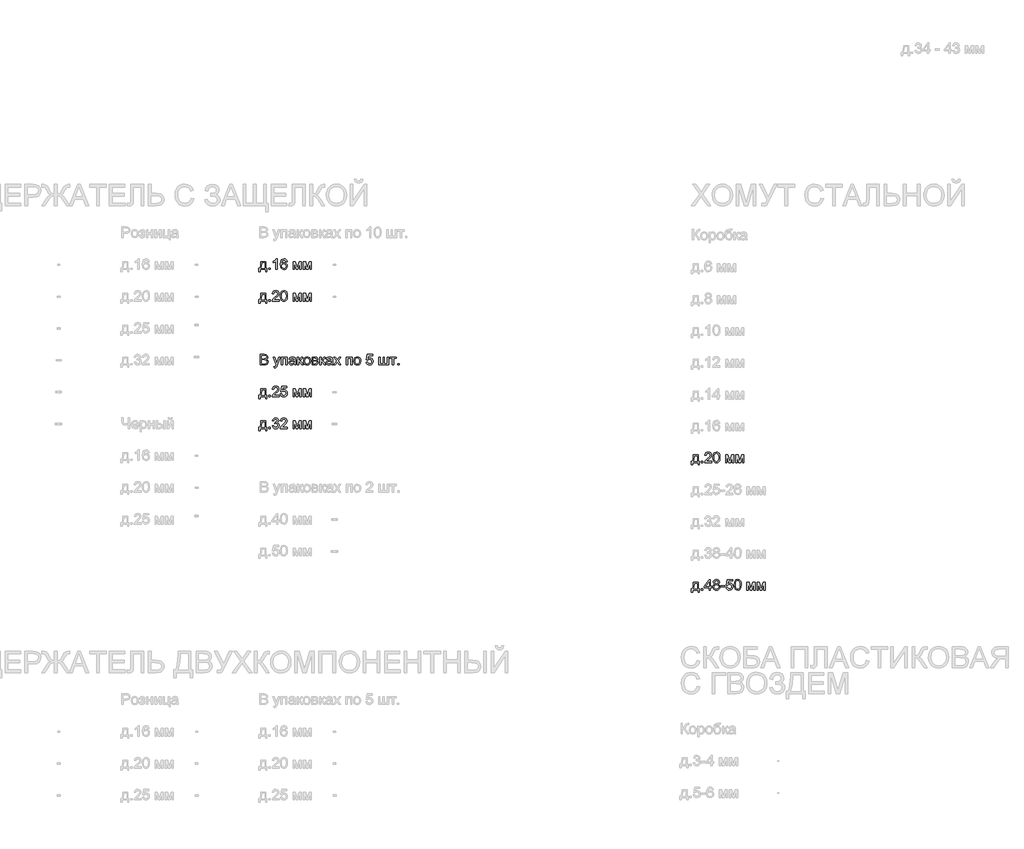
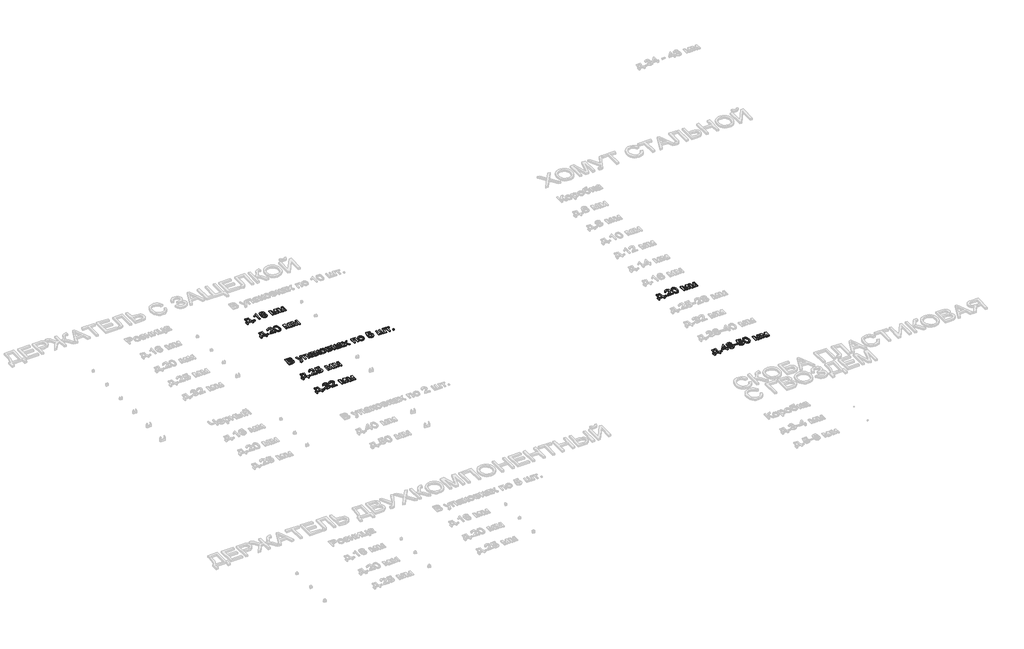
# One storey, part 47 of 98: 7 proxies.
"""IFC4 building model written with IfcOpenShell, lengths in millimetres."""

from ifc_helpers import new_model, si_unit, origin, origin_with_axes, place, context, project, spatial, polyline, outline, extrude, element, save

model = new_model("IFC4")

# Units and contexts
model_context = context("Model", 3, world=origin())
ifc_project = project(units=[si_unit("LENGTHUNIT", "METRE", prefix="MILLI")], contexts=[model_context])

# Site, building, storey
site = spatial("IfcSite", under=ifc_project)
building = spatial("IfcBuilding", under=site)
storey = spatial("IfcBuildingStorey", under=building, Name="Этаж 01", Elevation=0.0)

# Proxies
placement = place(None, origin())
element("IfcBuildingElementProxy", 1, Name="100", ObjectType="100", at=placement, inside=storey, context=model_context, shape_type="SweptSolid", body=[
    extrude(outline(polyline([(8374.7606918, -32185.7395637), (8421.8495872, -32185.7395637), (8421.8495872, -32246.9551277), (8431.2673663, -32246.9551277), (8431.2673663, -32279.9173545), (8418.7103275, -32279.9173545), (8418.7103275, -32259.5121665), (8366.9125426, -32259.5121665), (8366.9125426, -32279.9173545), (8354.3555038, -32279.9173545), (8354.3555038, -32246.9551277), (8362.2036531, -32246.9551277), (8371.903475, -32223.0060098), (8374.7606918, -32185.7395637)]), holes=[polyline([(8385.7481007, -32198.2966025), (8382.8050448, -32226.905559), (8376.3303217, -32246.9551277), (8409.2925484, -32246.9551277), (8409.2925484, -32198.2966025), (8385.7481007, -32198.2966025)])]), origin_with_axes(), (0.0, 0.0, 1.0), 10.0),
    extrude(outline(polyline([(8448.5332946, -32259.5121665), (8448.5332946, -32246.9551277), (8461.0903334, -32246.9551277), (8461.0903334, -32259.5121665), (8448.5332946, -32259.5121665)])), origin_with_axes(), (0.0, 0.0, 1.0), 10.0),
    extrude(outline(polyline([(8528.5844167, -32259.5121665), (8516.027378, -32259.5121665), (8516.027378, -32181.2268779), (8504.1325268, -32189.7004265), (8490.9133004, -32196.0402596), (8490.9133004, -32184.1699338), (8509.3196629, -32172.4222355), (8520.4910128, -32159.0558563), (8528.5844167, -32159.0558563), (8528.5844167, -32259.5121665)])), origin_with_axes(), (0.0, 0.0, 1.0), 10.0),
    extrude(outline(polyline([(8622.7622075, -32185.7395637), (8610.2051687, -32187.3091935), (8605.4472283, -32176.8368194), (8592.865664, -32171.6128951), (8581.5348986, -32174.6540529), (8572.9632481, -32186.0706575), (8569.3947927, -32208.4501455), (8580.4680408, -32198.4314925), (8594.1900392, -32195.1573428), (8605.7905848, -32197.3952916), (8615.5271949, -32204.109138), (8622.1306767, -32214.3669143), (8624.3318374, -32227.2366527), (8620.1870335, -32244.5638947), (8608.7826917, -32256.8266279), (8592.3261038, -32261.0817963), (8578.0798735, -32258.2613677), (8566.7337796, -32249.8000818), (8559.3117604, -32234.8640728), (8556.837754, -32212.6194748), (8559.5846062, -32187.6096305), (8567.8251629, -32170.5092491), (8579.0762206, -32161.9192045), (8593.650479, -32159.0558563), (8604.6685447, -32160.8278213), (8613.4915812, -32166.1437161), (8619.6719987, -32174.5866079), (8622.7622075, -32185.7395637)]), holes=[polyline([(8569.3947927, -32227.040449), (8572.3010605, -32237.9174933), (8580.0265824, -32245.8146935), (8591.3450851, -32248.5247575), (8599.6316271, -32247.1206746), (8606.1462041, -32242.9084257), (8610.36765, -32236.2865498), (8611.7747986, -32227.6535857), (8610.3860441, -32219.3670437), (8606.2197805, -32213.0486705), (8599.5948389, -32209.0479538), (8590.8300503, -32207.7143815), (8575.6365239, -32213.0486705), (8570.9552255, -32219.2137596), (8569.3947927, -32227.040449)])]), origin_with_axes(), (0.0, 0.0, 1.0), 10.0),
    extrude(outline(polyline([(8677.6992521, -32185.7395637), (8699.306188, -32185.7395637), (8715.9589796, -32244.7968867), (8733.911621, -32185.7395637), (8754.6111146, -32185.7395637), (8754.6111146, -32259.5121665), (8742.0540758, -32259.5121665), (8742.0540758, -32200.111487), (8724.0033326, -32259.5121665), (8707.5222192, -32259.5121665), (8690.2562909, -32197.2665329), (8690.2562909, -32259.5121665), (8677.6992521, -32259.5121665), (8677.6992521, -32185.7395637)])), origin_with_axes(), (0.0, 0.0, 1.0), 10.0),
    extrude(outline(polyline([(8773.4466727, -32185.7395637), (8795.0536086, -32185.7395637), (8811.7064002, -32244.7968867), (8829.6590416, -32185.7395637), (8850.3585352, -32185.7395637), (8850.3585352, -32259.5121665), (8837.8014964, -32259.5121665), (8837.8014964, -32200.111487), (8819.7507532, -32259.5121665), (8803.2696398, -32259.5121665), (8786.0037115, -32197.2665329), (8786.0037115, -32259.5121665), (8773.4466727, -32259.5121665), (8773.4466727, -32185.7395637)])), origin_with_axes(), (0.0, 0.0, 1.0), 10.0),
])
element("IfcBuildingElementProxy", 2, Name="100", ObjectType="100", at=placement, inside=storey, context=model_context, shape_type="SweptSolid", body=[
    extrude(outline(polyline([(8374.7606918, -32485.7395637), (8421.8495872, -32485.7395637), (8421.8495872, -32546.9551277), (8431.2673663, -32546.9551277), (8431.2673663, -32579.9173545), (8418.7103275, -32579.9173545), (8418.7103275, -32559.5121665), (8366.9125426, -32559.5121665), (8366.9125426, -32579.9173545), (8354.3555038, -32579.9173545), (8354.3555038, -32546.9551277), (8362.2036531, -32546.9551277), (8371.903475, -32523.0060098), (8374.7606918, -32485.7395637)]), holes=[polyline([(8385.7481007, -32498.2966025), (8382.8050448, -32526.905559), (8376.3303217, -32546.9551277), (8409.2925484, -32546.9551277), (8409.2925484, -32498.2966025), (8385.7481007, -32498.2966025)])]), origin_with_axes(), (0.0, 0.0, 1.0), 10.0),
    extrude(outline(polyline([(8448.5332946, -32559.5121665), (8448.5332946, -32546.9551277), (8461.0903334, -32546.9551277), (8461.0903334, -32559.5121665), (8448.5332946, -32559.5121665)])), origin_with_axes(), (0.0, 0.0, 1.0), 10.0),
    extrude(outline(polyline([(8545.850345, -32546.9551277), (8545.850345, -32559.5121665), (8479.9258915, -32559.5121665), (8481.2747922, -32550.8546768), (8488.9022122, -32537.5250859), (8504.6230361, -32522.9692216), (8526.3035484, -32502.0489988), (8531.7236764, -32487.8242283), (8526.6101167, -32476.3095219), (8513.2560003, -32471.6128951), (8499.3377981, -32476.1991573), (8494.0525601, -32488.8788234), (8481.4955214, -32487.3091935), (8484.5397449, -32475.1629563), (8491.1217669, -32466.2908689), (8500.8982309, -32460.8646095), (8513.5257804, -32459.0558563), (8526.2453004, -32461.0669445), (8536.0033703, -32467.1002093), (8542.211379, -32476.1133182), (8544.2807152, -32487.0639389), (8542.0488978, -32498.9710528), (8534.6299442, -32511.2828369), (8516.6405146, -32528.4874515), (8502.195015, -32540.5662437), (8496.5296322, -32546.9551277), (8545.850345, -32546.9551277)])), origin_with_axes(), (0.0, 0.0, 1.0), 10.0),
    extrude(outline(polyline([(8558.4073838, -32510.0933518), (8562.0984665, -32481.1900897), (8573.06135, -32464.5250353), (8591.3696106, -32459.0558563), (8606.0358395, -32462.2932179), (8616.1648571, -32471.6251578), (8622.050969, -32486.4875904), (8624.3318374, -32510.0933518), (8620.6775429, -32538.8739865), (8609.7514476, -32555.5758291), (8601.520088, -32559.7053045), (8591.3696106, -32561.0817963), (8578.3220625, -32558.6905633), (8568.4137741, -32551.5168644), (8560.9089814, -32534.5268476), (8558.4073838, -32510.0933518)]), holes=[polyline([(8570.9644226, -32510.0688263), (8572.4359506, -32529.8210238), (8576.8505345, -32541.2529568), (8583.4233595, -32546.7068073), (8591.3696106, -32548.5247575), (8599.3158617, -32546.700676), (8605.8886867, -32541.2284313), (8610.3032706, -32529.7903669), (8611.7747986, -32510.0688263), (8610.3523215, -32490.7611529), (8606.0848904, -32479.2403151), (8599.5243281, -32473.5197501), (8591.2224578, -32471.6128951), (8583.3620458, -32473.2928895), (8577.0467382, -32478.3328729), (8572.4850015, -32490.5710806), (8570.9644226, -32510.0688263)])]), origin_with_axes(), (0.0, 0.0, 1.0), 10.0),
    extrude(outline(polyline([(8677.6992521, -32485.7395637), (8699.306188, -32485.7395637), (8715.9589796, -32544.7968867), (8733.911621, -32485.7395637), (8754.6111146, -32485.7395637), (8754.6111146, -32559.5121665), (8742.0540758, -32559.5121665), (8742.0540758, -32500.111487), (8724.0033326, -32559.5121665), (8707.5222192, -32559.5121665), (8690.2562909, -32497.2665329), (8690.2562909, -32559.5121665), (8677.6992521, -32559.5121665), (8677.6992521, -32485.7395637)])), origin_with_axes(), (0.0, 0.0, 1.0), 10.0),
    extrude(outline(polyline([(8773.4466727, -32485.7395637), (8795.0536086, -32485.7395637), (8811.7064002, -32544.7968867), (8829.6590416, -32485.7395637), (8850.3585352, -32485.7395637), (8850.3585352, -32559.5121665), (8837.8014964, -32559.5121665), (8837.8014964, -32500.111487), (8819.7507532, -32559.5121665), (8803.2696398, -32559.5121665), (8786.0037115, -32497.2665329), (8786.0037115, -32559.5121665), (8773.4466727, -32559.5121665), (8773.4466727, -32485.7395637)])), origin_with_axes(), (0.0, 0.0, 1.0), 10.0),
])
element("IfcBuildingElementProxy", 3, Name="100", ObjectType="100", at=placement, inside=storey, context=model_context, shape_type="SweptSolid", body=[
    extrude(outline(polyline([(8368.1714909, -33159.5121665), (8368.1714909, -33059.0558563), (8406.5047948, -33059.0558563), (8425.2790392, -33062.011175), (8436.36455, -33071.0978603), (8440.3744638, -33083.9492046), (8437.0022122, -33095.6846403), (8426.8118809, -33104.5751218), (8439.1849787, -33113.94385), (8443.5137235, -33129.5665721), (8440.5584048, -33143.0678413), (8433.2375531, -33152.6818241), (8422.3114578, -33157.7831211), (8406.2104892, -33159.5121665), (8368.1714909, -33159.5121665)]), holes=[polyline([(8380.7285296, -33099.8662323), (8403.6598407, -33099.8662323), (8417.0507453, -33098.7871118), (8425.107361, -33094.1395359), (8427.817425, -33085.9602929), (8425.291302, -33077.7687871), (8418.0562894, -33072.9250075), (8401.9185325, -33071.6128951), (8380.7285296, -33071.6128951), (8380.7285296, -33099.8662323)]), polyline([(8380.7285296, -33146.9551277), (8406.4802693, -33146.9551277), (8415.7999465, -33146.4646184), (8423.6848839, -33143.7300289), (8428.9088083, -33138.1504853), (8430.9566847, -33129.6891994), (8428.553189, -33119.9280638), (8420.7663534, -33114.1032655), (8405.253996, -33112.4232711), (8380.7285296, -33112.4232711), (8380.7285296, -33146.9551277)])]), origin_with_axes(), (0.0, 0.0, 1.0), 10.0),
    extrude(outline(polyline([(8498.4507681, -33187.7655037), (8496.8811382, -33175.6744488), (8503.2577595, -33176.7780948), (8509.2174478, -33175.3924059), (8512.8717423, -33171.529645), (8516.3053076, -33162.2835442), (8517.2863262, -33159.2423863), (8490.6026189, -33085.7395637), (8503.8463707, -33085.7395637), (8517.9975648, -33126.6970925), (8522.9271835, -33143.080104), (8527.8568022, -33128.6100789), (8542.4004038, -33085.7395637), (8555.5460537, -33085.7395637), (8529.8678905, -33161.278), (8523.1969636, -33177.6610116), (8515.9129001, -33186.5147049), (8506.127239, -33189.3351335), (8498.4507681, -33187.7655037)])), origin_with_axes(), (0.0, 0.0, 1.0), 10.0),
    extrude(outline(polyline([(8565.9448515, -33085.7395637), (8622.4515259, -33085.7395637), (8622.4515259, -33159.5121665), (8609.8944872, -33159.5121665), (8609.8944872, -33098.2966025), (8578.5018902, -33098.2966025), (8578.5018902, -33159.5121665), (8565.9448515, -33159.5121665), (8565.9448515, -33085.7395637)])), origin_with_axes(), (0.0, 0.0, 1.0), 10.0),
    extrude(outline(polyline([(8688.3759795, -33150.0943874), (8676.1990854, -33158.6047242), (8662.7468671, -33161.0817963), (8652.2530332, -33159.5918742), (8644.5121829, -33155.122108), (8639.738914, -33148.3346852), (8638.1478244, -33139.8917934), (8640.5513201, -33129.9589795), (8646.8666277, -33122.7484924), (8655.6590074, -33118.6282141), (8666.5237889, -33116.7397532), (8688.3024031, -33112.4232711), (8688.3759795, -33109.6273679), (8684.9178887, -33100.3567416), (8671.0364748, -33096.7269726), (8658.3322832, -33099.1427311), (8652.274493, -33107.7143815), (8639.7174542, -33106.1447517), (8645.149845, -33093.8820185), (8656.088203, -33086.6960569), (8672.6551555, -33084.1699338), (8687.8732074, -33086.4017513), (8696.4693834, -33092.0058203), (8700.3198816, -33100.5284199), (8700.9330182, -33111.5158288), (8700.9330182, -33127.1385509), (8701.5706804, -33148.9539532), (8704.0722779, -33159.5121665), (8691.5152392, -33159.5121665), (8688.3759795, -33150.0943874)]), holes=[polyline([(8688.3759795, -33124.9803098), (8668.1179443, -33128.8308081), (8657.3144763, -33130.8664218), (8652.4216458, -33134.1773597), (8650.7048632, -33139.0088766), (8654.4449968, -33145.8024308), (8665.420143, -33148.5247575), (8678.1243345, -33145.5203879), (8686.3158403, -33138.2485871), (8688.3024031, -33128.5365025), (8688.3759795, -33124.9803098)])]), origin_with_axes(), (0.0, 0.0, 1.0), 10.0),
    extrude(outline(polyline([(8718.1989465, -33085.7395637), (8730.7559853, -33085.7395637), (8730.7559853, -33117.1321606), (8739.1682203, -33114.8758177), (8746.0598763, -33101.7301677), (8751.7865727, -33090.3871396), (8756.8388188, -33086.6960569), (8766.0236059, -33085.7395637), (8768.4271016, -33085.7395637), (8768.4271016, -33098.3701789), (8765.0425873, -33098.2966025), (8758.9112207, -33099.6209776), (8754.5947386, -33107.8860598), (8749.5302298, -33116.8255923), (8742.4301073, -33121.203388), (8750.3518329, -33126.0900872), (8758.1264057, -33136.3846517), (8771.5663613, -33159.5121665), (8757.2925399, -33159.5121665), (8744.1223645, -33136.875161), (8737.5004885, -33127.2979664), (8730.7559853, -33124.9803098), (8730.7559853, -33159.5121665), (8718.1989465, -33159.5121665), (8718.1989465, -33085.7395637)])), origin_with_axes(), (0.0, 0.0, 1.0), 10.0),
    extrude(outline(polyline([(8776.2752508, -33122.6258651), (8778.9914462, -33104.8387706), (8787.1400324, -33092.3369141), (8797.2077364, -33086.2116789), (8809.2620031, -33084.1699338), (8822.4536383, -33086.656203), (8832.9903918, -33094.1150104), (8839.8973762, -33105.957745), (8842.1997044, -33121.5957955), (8838.128477, -33143.9384953), (8826.270414, -33156.5813732), (8809.2620031, -33161.0817963), (8795.9109523, -33158.6047242), (8785.3864616, -33151.1735079), (8778.5530535, -33139.082453), (8776.2752508, -33122.6258651)]), holes=[polyline([(8788.8322896, -33122.6013396), (8790.2854235, -33133.9658276), (8794.6448251, -33142.0622972), (8801.2053874, -33146.9091424), (8809.2620031, -33148.5247575), (8817.2818306, -33146.8999454), (8823.8301301, -33142.025509), (8828.1895317, -33133.8217405), (8829.6426656, -33122.2089321), (8828.1803347, -33111.175538), (8823.7933419, -33103.189433), (8817.2358453, -33098.3425877), (8809.2620031, -33096.7269726), (8801.2053874, -33098.3364563), (8794.6448251, -33103.1649075), (8790.2854235, -33111.242983), (8788.8322896, -33122.6013396)])]), origin_with_axes(), (0.0, 0.0, 1.0), 10.0),
    extrude(outline(polyline([(8856.326373, -33085.7395637), (8883.991099, -33085.7395637), (8899.1601, -33087.4195581), (8907.6949623, -33093.5754502), (8911.2634176, -33104.3053417), (8909.1051766, -33113.024145), (8902.605928, -33119.2413507), (8911.0426884, -33126.0471676), (8914.4026773, -33137.8807051), (8912.2750931, -33147.4517684), (8907.2167157, -33154.1901403), (8899.2091509, -33158.1816599), (8888.2340047, -33159.5121665), (8856.326373, -33159.5121665), (8856.326373, -33085.7395637)]), holes=[polyline([(8868.8834118, -33113.9929009), (8881.2932977, -33113.9929009), (8891.5326799, -33113.3552388), (8896.5113496, -33110.8045903), (8898.7063788, -33106.1938026), (8894.8558806, -33100.0379106), (8881.6857052, -33098.2966025), (8868.8834118, -33098.2966025), (8868.8834118, -33113.9929009)]), polyline([(8868.8834118, -33146.9551277), (8884.2854046, -33146.9551277), (8897.9460894, -33144.6865221), (8901.8456385, -33136.8506356), (8899.6996602, -33130.8051081), (8894.1078539, -33127.2857037), (8883.0591313, -33126.5499397), (8868.8834118, -33126.5499397), (8868.8834118, -33146.9551277)])]), origin_with_axes(), (0.0, 0.0, 1.0), 10.0),
    extrude(outline(polyline([(8930.0989758, -33085.7395637), (8942.6560145, -33085.7395637), (8942.6560145, -33117.1321606), (8951.0682495, -33114.8758177), (8957.9599055, -33101.7301677), (8963.6866019, -33090.3871396), (8968.738848, -33086.6960569), (8977.9236351, -33085.7395637), (8980.3271308, -33085.7395637), (8980.3271308, -33098.3701789), (8976.9426165, -33098.2966025), (8970.8112499, -33099.6209776), (8966.4947678, -33107.8860598), (8961.430259, -33116.8255923), (8954.3301365, -33121.203388), (8962.2518621, -33126.0900872), (8970.026435, -33136.3846517), (8983.4663905, -33159.5121665), (8969.1925691, -33159.5121665), (8956.0223937, -33136.875161), (8949.4005178, -33127.2979664), (8942.6560145, -33124.9803098), (8942.6560145, -33159.5121665), (8930.0989758, -33159.5121665), (8930.0989758, -33085.7395637)])), origin_with_axes(), (0.0, 0.0, 1.0), 10.0),
    extrude(outline(polyline([(9038.4034351, -33150.0943874), (9026.2265411, -33158.6047242), (9012.7743228, -33161.0817963), (9002.2804889, -33159.5918742), (8994.5396386, -33155.122108), (8989.7663697, -33148.3346852), (8988.1752801, -33139.8917934), (8990.5787758, -33129.9589795), (8996.8940833, -33122.7484924), (9005.686463, -33118.6282141), (9016.5512446, -33116.7397532), (9038.3298587, -33112.4232711), (9038.4034351, -33109.6273679), (9034.9453444, -33100.3567416), (9021.0639304, -33096.7269726), (9008.3597389, -33099.1427311), (9002.3019487, -33107.7143815), (8989.7449099, -33106.1447517), (8995.1773007, -33093.8820185), (9006.1156587, -33086.6960569), (9022.6826112, -33084.1699338), (9037.9006631, -33086.4017513), (9046.496839, -33092.0058203), (9050.3473372, -33100.5284199), (9050.9604739, -33111.5158288), (9050.9604739, -33127.1385509), (9051.598136, -33148.9539532), (9054.0997336, -33159.5121665), (9041.5426948, -33159.5121665), (9038.4034351, -33150.0943874)]), holes=[polyline([(9038.4034351, -33124.9803098), (9018.1453999, -33128.8308081), (9007.341932, -33130.8664218), (9002.4491015, -33134.1773597), (9000.7323188, -33139.0088766), (9004.4724524, -33145.8024308), (9015.4475986, -33148.5247575), (9028.1517902, -33145.5203879), (9036.343296, -33138.2485871), (9038.3298587, -33128.5365025), (9038.4034351, -33124.9803098)])]), origin_with_axes(), (0.0, 0.0, 1.0), 10.0),
    extrude(outline(polyline([(9060.378253, -33159.5121665), (9087.2091132, -33122.4296613), (9061.9478828, -33085.7395637), (9077.0555701, -33085.7395637), (9089.2447269, -33103.3978995), (9094.9346351, -33111.736558), (9099.8642538, -33104.9184784), (9113.7456677, -33085.7395637), (9128.853355, -33085.7395637), (9102.3168004, -33122.4296613), (9127.8723364, -33159.5121665), (9112.7646491, -33159.5121665), (9097.3871817, -33137.2185176), (9094.5667531, -33133.1472901), (9075.4859403, -33159.5121665), (9060.378253, -33159.5121665)])), origin_with_axes(), (0.0, 0.0, 1.0), 10.0),
    extrude(outline(polyline([(9178.1004914, -33085.7395637), (9234.6071659, -33085.7395637), (9234.6071659, -33159.5121665), (9222.0501271, -33159.5121665), (9222.0501271, -33098.2966025), (9190.6575302, -33098.2966025), (9190.6575302, -33159.5121665), (9178.1004914, -33159.5121665), (9178.1004914, -33085.7395637)])), origin_with_axes(), (0.0, 0.0, 1.0), 10.0),
    extrude(outline(polyline([(9250.3034644, -33122.6258651), (9253.0196598, -33104.8387706), (9261.168246, -33092.3369141), (9271.2359499, -33086.2116789), (9283.2902166, -33084.1699338), (9296.4818518, -33086.656203), (9307.0186053, -33094.1150104), (9313.9255897, -33105.957745), (9316.2279179, -33121.5957955), (9312.1566905, -33143.9384953), (9300.2986275, -33156.5813732), (9283.2902166, -33161.0817963), (9269.9391659, -33158.6047242), (9259.4146751, -33151.1735079), (9252.581267, -33139.082453), (9250.3034644, -33122.6258651)]), holes=[polyline([(9262.8605031, -33122.6013396), (9264.313637, -33133.9658276), (9268.6730387, -33142.0622972), (9275.2336009, -33146.9091424), (9283.2902166, -33148.5247575), (9291.3100441, -33146.8999454), (9297.8583436, -33142.025509), (9302.2177452, -33133.8217405), (9303.6708791, -33122.2089321), (9302.2085482, -33111.175538), (9297.8215554, -33103.189433), (9291.2640588, -33098.3425877), (9283.2902166, -33096.7269726), (9275.2336009, -33098.3364563), (9268.6730387, -33103.1649075), (9264.313637, -33111.242983), (9262.8605031, -33122.6013396)])]), origin_with_axes(), (0.0, 0.0, 1.0), 10.0),
    extrude(outline(polyline([(9366.456073, -33132.8284591), (9379.0131117, -33131.2588292), (9385.3406821, -33144.1960127), (9398.4618066, -33148.5247575), (9407.4626527, -33147.019507), (9414.2071559, -33142.5037555), (9418.4194048, -33135.4986692), (9419.8234877, -33126.5254142), (9414.5627752, -33111.6139307), (9407.9562277, -33107.5120464), (9398.6580103, -33106.1447517), (9387.6338132, -33108.3275182), (9380.5827416, -33113.9929009), (9368.0257028, -33112.4232711), (9379.0131117, -33060.6254862), (9427.671637, -33060.6254862), (9427.671637, -33073.1825249), (9389.1666548, -33073.1825249), (9383.7955777, -33100.847251), (9392.765767, -33095.4025974), (9402.165152, -33093.5877129), (9413.8975219, -33095.8379245), (9423.6371978, -33102.5885591), (9430.1946943, -33112.8769922), (9432.3805265, -33125.7405993), (9430.4123578, -33138.2976381), (9424.5078518, -33149.0397923), (9413.2016118, -33158.0712953), (9398.4127556, -33161.0817963), (9386.0795117, -33159.1473501), (9376.2539968, -33153.3440117), (9369.5186906, -33144.3462312), (9366.456073, -33132.8284591)])), origin_with_axes(), (0.0, 0.0, 1.0), 10.0),
    extrude(outline(polyline([(9485.7479413, -33085.7395637), (9498.30498, -33085.7395637), (9498.30498, -33146.9551277), (9526.5583173, -33146.9551277), (9526.5583173, -33085.7395637), (9539.115356, -33085.7395637), (9539.115356, -33146.9551277), (9567.3686933, -33146.9551277), (9567.3686933, -33085.7395637), (9579.925732, -33085.7395637), (9579.925732, -33159.5121665), (9485.7479413, -33159.5121665), (9485.7479413, -33085.7395637)])), origin_with_axes(), (0.0, 0.0, 1.0), 10.0),
    extrude(outline(polyline([(9590.913141, -33085.7395637), (9650.5590751, -33085.7395637), (9650.5590751, -33098.2966025), (9627.0146274, -33098.2966025), (9627.0146274, -33159.5121665), (9614.4575887, -33159.5121665), (9614.4575887, -33098.2966025), (9590.913141, -33098.2966025), (9590.913141, -33085.7395637)])), origin_with_axes(), (0.0, 0.0, 1.0), 10.0),
    extrude(outline(polyline([(9664.6857437, -33159.5121665), (9664.6857437, -33146.9551277), (9677.2427825, -33146.9551277), (9677.2427825, -33159.5121665), (9664.6857437, -33159.5121665)])), origin_with_axes(), (0.0, 0.0, 1.0), 10.0),
])
element("IfcBuildingElementProxy", 4, Name="100", ObjectType="100", at=placement, inside=storey, context=model_context, shape_type="SweptSolid", body=[
    extrude(outline(polyline([(8374.7606918, -33385.7395637), (8421.8495872, -33385.7395637), (8421.8495872, -33446.9551277), (8431.2673663, -33446.9551277), (8431.2673663, -33479.9173545), (8418.7103275, -33479.9173545), (8418.7103275, -33459.5121665), (8366.9125426, -33459.5121665), (8366.9125426, -33479.9173545), (8354.3555038, -33479.9173545), (8354.3555038, -33446.9551277), (8362.2036531, -33446.9551277), (8371.903475, -33423.0060098), (8374.7606918, -33385.7395637)]), holes=[polyline([(8385.7481007, -33398.2966025), (8382.8050448, -33426.905559), (8376.3303217, -33446.9551277), (8409.2925484, -33446.9551277), (8409.2925484, -33398.2966025), (8385.7481007, -33398.2966025)])]), origin_with_axes(), (0.0, 0.0, 1.0), 10.0),
    extrude(outline(polyline([(8448.5332946, -33459.5121665), (8448.5332946, -33446.9551277), (8461.0903334, -33446.9551277), (8461.0903334, -33459.5121665), (8448.5332946, -33459.5121665)])), origin_with_axes(), (0.0, 0.0, 1.0), 10.0),
    extrude(outline(polyline([(8545.850345, -33446.9551277), (8545.850345, -33459.5121665), (8479.9258915, -33459.5121665), (8481.2747922, -33450.8546768), (8488.9022122, -33437.5250859), (8504.6230361, -33422.9692216), (8526.3035484, -33402.0489988), (8531.7236764, -33387.8242283), (8526.6101167, -33376.3095219), (8513.2560003, -33371.6128951), (8499.3377981, -33376.1991573), (8494.0525601, -33388.8788234), (8481.4955214, -33387.3091935), (8484.5397449, -33375.1629563), (8491.1217669, -33366.2908689), (8500.8982309, -33360.8646095), (8513.5257804, -33359.0558563), (8526.2453004, -33361.0669445), (8536.0033703, -33367.1002093), (8542.211379, -33376.1133182), (8544.2807152, -33387.0639389), (8542.0488978, -33398.9710528), (8534.6299442, -33411.2828369), (8516.6405146, -33428.4874515), (8502.195015, -33440.5662437), (8496.5296322, -33446.9551277), (8545.850345, -33446.9551277)])), origin_with_axes(), (0.0, 0.0, 1.0), 10.0),
    extrude(outline(polyline([(8558.4073838, -33432.8284591), (8570.9644226, -33431.2588292), (8577.2919929, -33444.1960127), (8590.4131174, -33448.5247575), (8599.4139635, -33447.019507), (8606.1584668, -33442.5037555), (8610.3707156, -33435.4986692), (8611.7747986, -33426.5254142), (8606.5140861, -33411.6139307), (8599.9075386, -33407.5120464), (8590.6093211, -33406.1447517), (8579.585124, -33408.3275182), (8572.5340524, -33413.9929009), (8559.9770137, -33412.4232711), (8570.9644226, -33360.6254862), (8619.6229478, -33360.6254862), (8619.6229478, -33373.1825249), (8581.1179657, -33373.1825249), (8575.7468885, -33400.847251), (8584.7170778, -33395.4025974), (8594.1164628, -33393.5877129), (8605.8488328, -33395.8379245), (8615.5885086, -33402.5885591), (8622.1460052, -33412.8769922), (8624.3318374, -33425.7405993), (8622.3636687, -33438.2976381), (8616.4591627, -33449.0397923), (8605.1529227, -33458.0712953), (8590.3640665, -33461.0817963), (8578.0308226, -33459.1473501), (8568.2053076, -33453.3440117), (8561.4700014, -33444.3462312), (8558.4073838, -33432.8284591)])), origin_with_axes(), (0.0, 0.0, 1.0), 10.0),
    extrude(outline(polyline([(8677.6992521, -33385.7395637), (8699.306188, -33385.7395637), (8715.9589796, -33444.7968867), (8733.911621, -33385.7395637), (8754.6111146, -33385.7395637), (8754.6111146, -33459.5121665), (8742.0540758, -33459.5121665), (8742.0540758, -33400.111487), (8724.0033326, -33459.5121665), (8707.5222192, -33459.5121665), (8690.2562909, -33397.2665329), (8690.2562909, -33459.5121665), (8677.6992521, -33459.5121665), (8677.6992521, -33385.7395637)])), origin_with_axes(), (0.0, 0.0, 1.0), 10.0),
    extrude(outline(polyline([(8773.4466727, -33385.7395637), (8795.0536086, -33385.7395637), (8811.7064002, -33444.7968867), (8829.6590416, -33385.7395637), (8850.3585352, -33385.7395637), (8850.3585352, -33459.5121665), (8837.8014964, -33459.5121665), (8837.8014964, -33400.111487), (8819.7507532, -33459.5121665), (8803.2696398, -33459.5121665), (8786.0037115, -33397.2665329), (8786.0037115, -33459.5121665), (8773.4466727, -33459.5121665), (8773.4466727, -33385.7395637)])), origin_with_axes(), (0.0, 0.0, 1.0), 10.0),
])
element("IfcBuildingElementProxy", 5, Name="100", ObjectType="100", at=placement, inside=storey, context=model_context, shape_type="SweptSolid", body=[
    extrude(outline(polyline([(8374.7606918, -33685.7395637), (8421.8495872, -33685.7395637), (8421.8495872, -33746.9551277), (8431.2673663, -33746.9551277), (8431.2673663, -33779.9173545), (8418.7103275, -33779.9173545), (8418.7103275, -33759.5121665), (8366.9125426, -33759.5121665), (8366.9125426, -33779.9173545), (8354.3555038, -33779.9173545), (8354.3555038, -33746.9551277), (8362.2036531, -33746.9551277), (8371.903475, -33723.0060098), (8374.7606918, -33685.7395637)]), holes=[polyline([(8385.7481007, -33698.2966025), (8382.8050448, -33726.905559), (8376.3303217, -33746.9551277), (8409.2925484, -33746.9551277), (8409.2925484, -33698.2966025), (8385.7481007, -33698.2966025)])]), origin_with_axes(), (0.0, 0.0, 1.0), 10.0),
    extrude(outline(polyline([(8448.5332946, -33759.5121665), (8448.5332946, -33746.9551277), (8461.0903334, -33746.9551277), (8461.0903334, -33759.5121665), (8448.5332946, -33759.5121665)])), origin_with_axes(), (0.0, 0.0, 1.0), 10.0),
    extrude(outline(polyline([(8481.4955214, -33732.8284591), (8494.0525601, -33731.2588292), (8500.9810044, -33744.4780556), (8513.9427133, -33748.5247575), (8522.551152, -33747.1329373), (8529.1975534, -33742.9574767), (8534.8629361, -33729.1741646), (8529.2466043, -33716.1879302), (8514.9727829, -33711.049845), (8506.1681405, -33712.4232711), (8507.5660921, -33699.8662323), (8509.5771803, -33700.0133851), (8523.8264763, -33696.4081416), (8528.572154, -33691.8341421), (8530.1540466, -33685.3226308), (8525.5677844, -33675.5001815), (8513.7465096, -33671.6128951), (8501.778082, -33675.5369697), (8495.62219, -33687.3091935), (8483.0651512, -33685.7395637), (8486.7623653, -33674.4639805), (8493.3413216, -33666.0456142), (8502.3421678, -33660.8032958), (8513.3050512, -33659.0558563), (8528.4495267, -33662.5016843), (8539.0445281, -33671.9194634), (8542.7110854, -33684.5868668), (8539.2284691, -33696.1628869), (8528.9277733, -33704.47702), (8542.6129835, -33713.0609332), (8547.4199749, -33729.3948938), (8545.0164792, -33741.6331015), (8537.8059921, -33751.860221), (8526.9228164, -33758.7764025), (8513.5012549, -33761.0817963), (8501.3611491, -33759.1136276), (8491.4773862, -33753.2091216), (8484.6041242, -33744.1776186), (8481.4955214, -33732.8284591)])), origin_with_axes(), (0.0, 0.0, 1.0), 10.0),
    extrude(outline(polyline([(8622.7622075, -33746.9551277), (8622.7622075, -33759.5121665), (8556.837754, -33759.5121665), (8558.1866546, -33750.8546768), (8565.8140747, -33737.5250859), (8581.5348986, -33722.9692216), (8603.2154108, -33702.0489988), (8608.6355389, -33687.8242283), (8603.5219792, -33676.3095219), (8590.1678627, -33671.6128951), (8576.2496606, -33676.1991573), (8570.9644226, -33688.8788234), (8558.4073838, -33687.3091935), (8561.4516073, -33675.1629563), (8568.0336294, -33666.2908689), (8577.8100934, -33660.8646095), (8590.4376429, -33659.0558563), (8603.1571628, -33661.0669445), (8612.9152328, -33667.1002093), (8619.1232414, -33676.1133182), (8621.1925777, -33687.0639389), (8618.9607602, -33698.9710528), (8611.5418067, -33711.2828369), (8593.5523771, -33728.4874515), (8579.1068774, -33740.5662437), (8573.4414947, -33746.9551277), (8622.7622075, -33746.9551277)])), origin_with_axes(), (0.0, 0.0, 1.0), 10.0),
    extrude(outline(polyline([(8677.6992521, -33685.7395637), (8699.306188, -33685.7395637), (8715.9589796, -33744.7968867), (8733.911621, -33685.7395637), (8754.6111146, -33685.7395637), (8754.6111146, -33759.5121665), (8742.0540758, -33759.5121665), (8742.0540758, -33700.111487), (8724.0033326, -33759.5121665), (8707.5222192, -33759.5121665), (8690.2562909, -33697.2665329), (8690.2562909, -33759.5121665), (8677.6992521, -33759.5121665), (8677.6992521, -33685.7395637)])), origin_with_axes(), (0.0, 0.0, 1.0), 10.0),
    extrude(outline(polyline([(8773.4466727, -33685.7395637), (8795.0536086, -33685.7395637), (8811.7064002, -33744.7968867), (8829.6590416, -33685.7395637), (8850.3585352, -33685.7395637), (8850.3585352, -33759.5121665), (8837.8014964, -33759.5121665), (8837.8014964, -33700.111487), (8819.7507532, -33759.5121665), (8803.2696398, -33759.5121665), (8786.0037115, -33697.2665329), (8786.0037115, -33759.5121665), (8773.4466727, -33759.5121665), (8773.4466727, -33685.7395637)])), origin_with_axes(), (0.0, 0.0, 1.0), 10.0),
])
element("IfcBuildingElementProxy", 6, Name="100", ObjectType="100", at=placement, inside=storey, context=model_context, shape_type="SweptSolid", body=[
    extrude(outline(polyline([(12451.0393687, -34007.7143815), (12498.1282641, -34007.7143815), (12498.1282641, -34068.9299455), (12507.5460431, -34068.9299455), (12507.5460431, -34101.8921723), (12494.9890044, -34101.8921723), (12494.9890044, -34081.4869843), (12443.1912195, -34081.4869843), (12443.1912195, -34101.8921723), (12430.6341807, -34101.8921723), (12430.6341807, -34068.9299455), (12438.4823299, -34068.9299455), (12448.1821519, -34044.9808276), (12451.0393687, -34007.7143815)]), holes=[polyline([(12462.0267776, -34020.2714203), (12459.0837216, -34048.8803768), (12452.6089985, -34068.9299455), (12485.5712253, -34068.9299455), (12485.5712253, -34020.2714203), (12462.0267776, -34020.2714203)])]), origin_with_axes(), (0.0, 0.0, 1.0), 10.0),
    extrude(outline(polyline([(12524.8119715, -34081.4869843), (12524.8119715, -34068.9299455), (12537.3690102, -34068.9299455), (12537.3690102, -34081.4869843), (12524.8119715, -34081.4869843)])), origin_with_axes(), (0.0, 0.0, 1.0), 10.0),
    extrude(outline(polyline([(12622.1290219, -34068.9299455), (12622.1290219, -34081.4869843), (12556.2045684, -34081.4869843), (12557.553469, -34072.8294947), (12565.1808891, -34059.4999037), (12580.901713, -34044.9440394), (12602.5822252, -34024.0238167), (12608.0023533, -34009.7990462), (12602.8887936, -33998.2843397), (12589.5346771, -33993.5877129), (12575.616475, -33998.1739751), (12570.331237, -34010.8536412), (12557.7741982, -34009.2840114), (12560.8184217, -33997.1377742), (12567.4004438, -33988.2656867), (12577.1769078, -33982.8394273), (12589.8044573, -33981.0306742), (12602.5239772, -33983.0417624), (12612.2820472, -33989.0750271), (12618.4900558, -33998.088136), (12620.5593921, -34009.0387567), (12618.3275746, -34020.9458706), (12610.9086211, -34033.2576547), (12592.9191915, -34050.4622694), (12578.4736918, -34062.5410616), (12572.8083091, -34068.9299455), (12622.1290219, -34068.9299455)])), origin_with_axes(), (0.0, 0.0, 1.0), 10.0),
    extrude(outline(polyline([(12634.6860607, -34032.0681696), (12638.3771434, -34003.1649075), (12649.3400268, -33986.4998531), (12667.6482874, -33981.0306742), (12682.3145163, -33984.2680357), (12692.4435339, -33993.5999757), (12698.3296458, -34008.4624083), (12700.6105142, -34032.0681696), (12696.9562197, -34060.8488044), (12686.0301245, -34077.550647), (12677.7987648, -34081.6801224), (12667.6482874, -34083.0566141), (12654.6007393, -34080.6653812), (12644.6924509, -34073.4916823), (12637.1876582, -34056.5016655), (12634.6860607, -34032.0681696)]), holes=[polyline([(12647.2430994, -34032.0436442), (12648.7146274, -34051.7958416), (12653.1292114, -34063.2277746), (12659.7020363, -34068.6816252), (12667.6482874, -34070.4995754), (12675.5945385, -34068.6754938), (12682.1673635, -34063.2032491), (12686.5819475, -34051.7651848), (12688.0534754, -34032.0436442), (12686.6309984, -34012.7359708), (12682.3635673, -34001.215133), (12675.803005, -33995.4945679), (12667.5011346, -33993.5877129), (12659.6407227, -33995.2677074), (12653.3254151, -34000.3076907), (12648.7636784, -34012.5458984), (12647.2430994, -34032.0436442)])]), origin_with_axes(), (0.0, 0.0, 1.0), 10.0),
    extrude(outline(polyline([(12753.977929, -34007.7143815), (12775.5848648, -34007.7143815), (12792.2376565, -34066.7717045), (12810.1902978, -34007.7143815), (12830.8897914, -34007.7143815), (12830.8897914, -34081.4869843), (12818.3327527, -34081.4869843), (12818.3327527, -34022.0863048), (12800.2820094, -34081.4869843), (12783.8008961, -34081.4869843), (12766.5349677, -34019.2413507), (12766.5349677, -34081.4869843), (12753.977929, -34081.4869843), (12753.977929, -34007.7143815)])), origin_with_axes(), (0.0, 0.0, 1.0), 10.0),
    extrude(outline(polyline([(12849.7253496, -34007.7143815), (12871.3322854, -34007.7143815), (12887.9850771, -34066.7717045), (12905.9377185, -34007.7143815), (12926.637212, -34007.7143815), (12926.637212, -34081.4869843), (12914.0801733, -34081.4869843), (12914.0801733, -34022.0863048), (12896.0294301, -34081.4869843), (12879.5483167, -34081.4869843), (12862.2823884, -34019.2413507), (12862.2823884, -34081.4869843), (12849.7253496, -34081.4869843), (12849.7253496, -34007.7143815)])), origin_with_axes(), (0.0, 0.0, 1.0), 10.0),
])
element("IfcBuildingElementProxy", 7, Name="100", ObjectType="100", at=placement, inside=storey, context=model_context, shape_type="SweptSolid", body=[
    extrude(outline(polyline([(12451.0393687, -35207.7143815), (12498.1282641, -35207.7143815), (12498.1282641, -35268.9299455), (12507.5460431, -35268.9299455), (12507.5460431, -35301.8921723), (12494.9890044, -35301.8921723), (12494.9890044, -35281.4869843), (12443.1912195, -35281.4869843), (12443.1912195, -35301.8921723), (12430.6341807, -35301.8921723), (12430.6341807, -35268.9299455), (12438.4823299, -35268.9299455), (12448.1821519, -35244.9808276), (12451.0393687, -35207.7143815)]), holes=[polyline([(12462.0267776, -35220.2714203), (12459.0837216, -35248.8803768), (12452.6089985, -35268.9299455), (12485.5712253, -35268.9299455), (12485.5712253, -35220.2714203), (12462.0267776, -35220.2714203)])]), origin_with_axes(), (0.0, 0.0, 1.0), 10.0),
    extrude(outline(polyline([(12524.8119715, -35281.4869843), (12524.8119715, -35268.9299455), (12537.3690102, -35268.9299455), (12537.3690102, -35281.4869843), (12524.8119715, -35281.4869843)])), origin_with_axes(), (0.0, 0.0, 1.0), 10.0),
    extrude(outline(polyline([(12598.5845742, -35281.4869843), (12598.5845742, -35257.9425366), (12553.0653087, -35257.9425366), (12553.0653087, -35245.3854978), (12601.7238339, -35182.600304), (12611.141613, -35182.600304), (12611.141613, -35245.3854978), (12623.6986518, -35245.3854978), (12623.6986518, -35257.9425366), (12611.141613, -35257.9425366), (12611.141613, -35281.4869843), (12598.5845742, -35281.4869843)]), holes=[polyline([(12598.5845742, -35245.3854978), (12598.5845742, -35206.5862101), (12568.5163525, -35245.3854978), (12598.5845742, -35245.3854978)])]), origin_with_axes(), (0.0, 0.0, 1.0), 10.0),
    extrude(outline(polyline([(12652.9820586, -35226.1575322), (12641.5409285, -35218.3584339), (12637.8253204, -35206.2183281), (12639.8486713, -35196.4020102), (12645.9187243, -35188.2902122), (12655.3548974, -35182.8455587), (12667.4766092, -35181.0306742), (12679.6718973, -35182.8884782), (12689.2306978, -35188.4618905), (12695.4111153, -35196.7024471), (12697.4712545, -35206.5616846), (12693.8046973, -35218.3952221), (12682.6823983, -35226.1575322), (12696.0365147, -35236.004507), (12700.6105142, -35252.2526284), (12698.3419086, -35264.2578442), (12691.5360917, -35274.1783953), (12681.0269293, -35280.8370594), (12667.6482874, -35283.0566141), (12654.2696456, -35280.8278624), (12643.7604832, -35274.1416071), (12636.9546663, -35264.1260198), (12634.6860607, -35251.9092719), (12639.4440011, -35235.2810057), (12652.9820586, -35226.1575322)]), holes=[polyline([(12647.2430994, -35251.4678135), (12649.3400268, -35260.9223808), (12656.7589804, -35267.9979778), (12667.7463893, -35270.4995754), (12676.2935143, -35269.1843972), (12682.7069238, -35265.2388629), (12688.0534754, -35251.860221), (12682.5352455, -35238.2240617), (12675.9746833, -35234.1773597), (12667.3294564, -35232.8284591), (12658.901893, -35234.1589656), (12652.5528629, -35238.1504853), (12647.2430994, -35251.4678135)]), polyline([(12650.3823591, -35206.5862101), (12654.8337313, -35216.4454476), (12667.7954402, -35220.2714203), (12680.4996318, -35216.469973), (12684.9142158, -35207.1502958), (12680.352479, -35197.4995248), (12667.6482874, -35193.5877129), (12654.9073077, -35197.4136857), (12650.3823591, -35206.5862101)])]), origin_with_axes(), (0.0, 0.0, 1.0), 10.0),
    extrude(outline(polyline([(12708.4586634, -35251.6640172), (12708.4586634, -35239.1069785), (12747.6994096, -35239.1069785), (12747.6994096, -35251.6640172), (12708.4586634, -35251.6640172)])), origin_with_axes(), (0.0, 0.0, 1.0), 10.0),
    extrude(outline(polyline([(12758.6868185, -35254.8032769), (12771.2438573, -35253.2336471), (12777.5714276, -35266.1708306), (12790.6925521, -35270.4995754), (12799.6933982, -35268.9943249), (12806.4379015, -35264.4785734), (12810.6501503, -35257.4734871), (12812.0542333, -35248.5002321), (12806.7935208, -35233.5887485), (12800.1869733, -35229.4868643), (12790.8887558, -35228.1195695), (12779.8645587, -35230.302336), (12772.8134871, -35235.9677188), (12760.2564484, -35234.3980889), (12771.2438573, -35182.600304), (12819.9023825, -35182.600304), (12819.9023825, -35195.1573428), (12781.3974004, -35195.1573428), (12776.0263232, -35222.8220688), (12784.9965125, -35217.3774153), (12794.3958975, -35215.5625308), (12806.1282675, -35217.8127423), (12815.8679433, -35224.5633769), (12822.4254399, -35234.85181), (12824.6112721, -35247.7154171), (12822.6431034, -35260.2724559), (12816.7385974, -35271.0146102), (12805.4323574, -35280.0461132), (12790.6435012, -35283.0566141), (12778.3102573, -35281.122168), (12768.4847423, -35275.3188295), (12761.7494361, -35266.3210491), (12758.6868185, -35254.8032769)])), origin_with_axes(), (0.0, 0.0, 1.0), 10.0),
    extrude(outline(polyline([(12835.598681, -35232.0681696), (12839.2897637, -35203.1649075), (12850.2526471, -35186.4998531), (12868.5609077, -35181.0306742), (12883.2271366, -35184.2680357), (12893.3561542, -35193.5999757), (12899.2422661, -35208.4624083), (12901.5231345, -35232.0681696), (12897.86884, -35260.8488044), (12886.9427448, -35277.550647), (12878.7113851, -35281.6801224), (12868.5609077, -35283.0566141), (12855.5133596, -35280.6653812), (12845.6050712, -35273.4916823), (12838.1002785, -35256.5016655), (12835.598681, -35232.0681696)]), holes=[polyline([(12848.1557197, -35232.0436442), (12849.6272477, -35251.7958416), (12854.0418317, -35263.2277746), (12860.6146566, -35268.6816252), (12868.5609077, -35270.4995754), (12876.5071588, -35268.6754938), (12883.0799838, -35263.2032491), (12887.4945678, -35251.7651848), (12888.9660957, -35232.0436442), (12887.5436187, -35212.7359708), (12883.2761876, -35201.215133), (12876.7156253, -35195.4945679), (12868.4137549, -35193.5877129), (12860.553343, -35195.2677074), (12854.2380354, -35200.3076907), (12849.6762987, -35212.5458984), (12848.1557197, -35232.0436442)])]), origin_with_axes(), (0.0, 0.0, 1.0), 10.0),
    extrude(outline(polyline([(12954.8905493, -35207.7143815), (12976.4974851, -35207.7143815), (12993.1502768, -35266.7717045), (13011.1029181, -35207.7143815), (13031.8024117, -35207.7143815), (13031.8024117, -35281.4869843), (13019.245373, -35281.4869843), (13019.245373, -35222.0863048), (13001.1946297, -35281.4869843), (12984.7135164, -35281.4869843), (12967.447588, -35219.2413507), (12967.447588, -35281.4869843), (12954.8905493, -35281.4869843), (12954.8905493, -35207.7143815)])), origin_with_axes(), (0.0, 0.0, 1.0), 10.0),
    extrude(outline(polyline([(13050.6379699, -35207.7143815), (13072.2449057, -35207.7143815), (13088.8976974, -35266.7717045), (13106.8503388, -35207.7143815), (13127.5498323, -35207.7143815), (13127.5498323, -35281.4869843), (13114.9927936, -35281.4869843), (13114.9927936, -35222.0863048), (13096.9420503, -35281.4869843), (13080.460937, -35281.4869843), (13063.1950087, -35219.2413507), (13063.1950087, -35281.4869843), (13050.6379699, -35281.4869843), (13050.6379699, -35207.7143815)])), origin_with_axes(), (0.0, 0.0, 1.0), 10.0),
])

save(model, "model.ifc")
